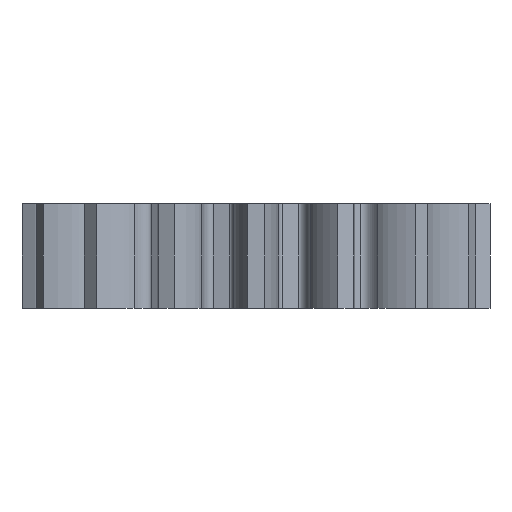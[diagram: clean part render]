
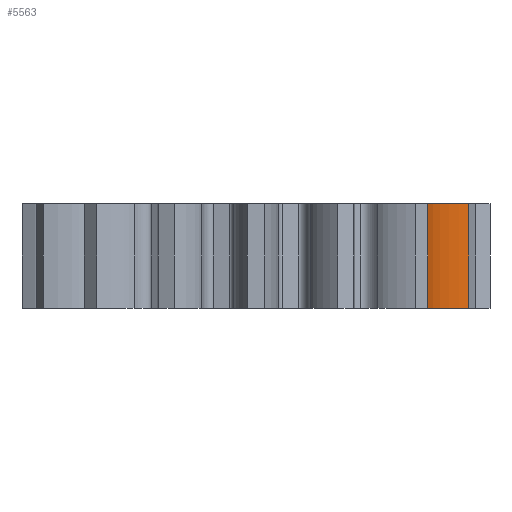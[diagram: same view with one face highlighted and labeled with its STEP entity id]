
A CAD part, front view. The second image highlights one B-rep face of the part: STEP entity #5563.
In plain terms, the highlighted free-form (B-spline) face has degree [1, 3] with [2, 4] control points.
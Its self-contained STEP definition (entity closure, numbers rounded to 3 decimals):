
#45 = PLANE('',#46);
#46 = AXIS2_PLACEMENT_3D('',#47,#48,#49);
#47 = CARTESIAN_POINT('',(0.,0.,0.));
#48 = DIRECTION('',(0.,0.,1.));
#49 = DIRECTION('',(1.,0.,0.));
#101 = PLANE('',#102);
#102 = AXIS2_PLACEMENT_3D('',#103,#104,#105);
#103 = CARTESIAN_POINT('',(0.,0.,5.));
#104 = DIRECTION('',(0.,0.,1.));
#105 = DIRECTION('',(1.,0.,0.));
#2986 = VERTEX_POINT('',#2987);
#2987 = CARTESIAN_POINT('',(8.23,-4.557,0.));
#3003 = ( BOUNDED_SURFACE() B_SPLINE_SURFACE(1,3,(
    (#3004,#3005,#3006,#3007)
    ,(#3008,#3009,#3010,#3011
)),.UNSPECIFIED.,.F.,.F.,.F.) B_SPLINE_SURFACE_WITH_KNOTS((2,2),(4,4),(
    0.,1.),(0.,1.),.PIECEWISE_BEZIER_KNOTS.) 
GEOMETRIC_REPRESENTATION_ITEM() RATIONAL_B_SPLINE_SURFACE((
    (1.,0.881,1.088,1.)
,(1.,0.881,1.088,1.
))) REPRESENTATION_ITEM('') SURFACE() );
#3004 = CARTESIAN_POINT('',(7.267,-4.41,0.));
#3005 = CARTESIAN_POINT('',(7.438,-4.132,0.));
#3006 = CARTESIAN_POINT('',(7.949,-4.369,0.));
#3007 = CARTESIAN_POINT('',(8.23,-4.557,0.));
#3008 = CARTESIAN_POINT('',(7.267,-4.41,5.));
#3009 = CARTESIAN_POINT('',(7.438,-4.132,5.));
#3010 = CARTESIAN_POINT('',(7.949,-4.369,5.));
#3011 = CARTESIAN_POINT('',(8.23,-4.557,5.));
#3018 = EDGE_CURVE('',#2986,#3019,#3021,.T.);
#3019 = VERTEX_POINT('',#3020);
#3020 = CARTESIAN_POINT('',(10.227,-4.687,0.));
#3021 = SURFACE_CURVE('',#3022,(#3027,#3035),.PCURVE_S1.);
#3022 = ( BOUNDED_CURVE() B_SPLINE_CURVE(3,(#3023,#3024,#3025,#3026),
.UNSPECIFIED.,.F.,.F.) B_SPLINE_CURVE_WITH_KNOTS((4,4),(0.,1.),
.PIECEWISE_BEZIER_KNOTS.) CURVE() GEOMETRIC_REPRESENTATION_ITEM() 
RATIONAL_B_SPLINE_CURVE((1.,0.993,1.012,1.)) 
REPRESENTATION_ITEM('') );
#3023 = CARTESIAN_POINT('',(8.23,-4.557,0.));
#3024 = CARTESIAN_POINT('',(8.746,-4.787,0.));
#3025 = CARTESIAN_POINT('',(9.568,-4.791,0.));
#3026 = CARTESIAN_POINT('',(10.227,-4.687,0.));
#3027 = PCURVE('',#45,#3028);
#3028 = DEFINITIONAL_REPRESENTATION('',(#3029),#3034);
#3029 = ( BOUNDED_CURVE() B_SPLINE_CURVE(3,(#3030,#3031,#3032,#3033),
.UNSPECIFIED.,.F.,.F.) B_SPLINE_CURVE_WITH_KNOTS((4,4),(0.,1.),
.PIECEWISE_BEZIER_KNOTS.) CURVE() GEOMETRIC_REPRESENTATION_ITEM() 
RATIONAL_B_SPLINE_CURVE((1.,0.993,1.012,1.)) 
REPRESENTATION_ITEM('') );
#3030 = CARTESIAN_POINT('',(8.23,-4.557));
#3031 = CARTESIAN_POINT('',(8.746,-4.787));
#3032 = CARTESIAN_POINT('',(9.568,-4.791));
#3033 = CARTESIAN_POINT('',(10.227,-4.687));
#3034 = ( GEOMETRIC_REPRESENTATION_CONTEXT(2) 
PARAMETRIC_REPRESENTATION_CONTEXT() REPRESENTATION_CONTEXT('2D SPACE',''
  ) );
#3035 = PCURVE('',#3036,#3045);
#3036 = ( BOUNDED_SURFACE() B_SPLINE_SURFACE(1,3,(
    (#3037,#3038,#3039,#3040)
    ,(#3041,#3042,#3043,#3044
)),.UNSPECIFIED.,.F.,.F.,.F.) B_SPLINE_SURFACE_WITH_KNOTS((2,2),(4,4),(
    0.,1.),(0.,1.),.PIECEWISE_BEZIER_KNOTS.) 
GEOMETRIC_REPRESENTATION_ITEM() RATIONAL_B_SPLINE_SURFACE((
    (1.,0.993,1.012,1.)
,(1.,0.993,1.012,1.
  ))) REPRESENTATION_ITEM('') SURFACE() );
#3037 = CARTESIAN_POINT('',(8.23,-4.557,0.));
#3038 = CARTESIAN_POINT('',(8.746,-4.787,0.));
#3039 = CARTESIAN_POINT('',(9.568,-4.791,0.));
#3040 = CARTESIAN_POINT('',(10.227,-4.687,0.));
#3041 = CARTESIAN_POINT('',(8.23,-4.557,5.));
#3042 = CARTESIAN_POINT('',(8.746,-4.787,5.));
#3043 = CARTESIAN_POINT('',(9.568,-4.791,5.));
#3044 = CARTESIAN_POINT('',(10.227,-4.687,5.));
#3045 = DEFINITIONAL_REPRESENTATION('',(#3046),#3049);
#3046 = B_SPLINE_CURVE_WITH_KNOTS('',1,(#3047,#3048),.UNSPECIFIED.,.F.,
  .F.,(2,2),(0.,1.),.PIECEWISE_BEZIER_KNOTS.);
#3047 = CARTESIAN_POINT('',(0.,0.));
#3048 = CARTESIAN_POINT('',(0.,1.));
#3049 = ( GEOMETRIC_REPRESENTATION_CONTEXT(2) 
PARAMETRIC_REPRESENTATION_CONTEXT() REPRESENTATION_CONTEXT('2D SPACE',''
  ) );
#3067 = ( BOUNDED_SURFACE() B_SPLINE_SURFACE(1,2,(
    (#3068,#3069,#3070)
    ,(#3071,#3072,#3073
)),.UNSPECIFIED.,.F.,.F.,.F.) B_SPLINE_SURFACE_WITH_KNOTS((2,2),(3,3),(
    0.,1.),(0.,1.),.PIECEWISE_BEZIER_KNOTS.) 
GEOMETRIC_REPRESENTATION_ITEM() RATIONAL_B_SPLINE_SURFACE((
    (1.,0.999,1.)
,(1.,0.999,1.))) REPRESENTATION_ITEM('') SURFACE() );
#3068 = CARTESIAN_POINT('',(10.227,-4.687,0.));
#3069 = CARTESIAN_POINT('',(10.401,-4.308,0.));
#3070 = CARTESIAN_POINT('',(10.546,-3.918,0.));
#3071 = CARTESIAN_POINT('',(10.227,-4.687,5.));
#3072 = CARTESIAN_POINT('',(10.401,-4.308,5.));
#3073 = CARTESIAN_POINT('',(10.546,-3.918,5.));
#5322 = VERTEX_POINT('',#5323);
#5323 = CARTESIAN_POINT('',(8.23,-4.557,5.));
#5345 = EDGE_CURVE('',#5322,#5346,#5348,.T.);
#5346 = VERTEX_POINT('',#5347);
#5347 = CARTESIAN_POINT('',(10.227,-4.687,5.));
#5348 = SURFACE_CURVE('',#5349,(#5354,#5362),.PCURVE_S1.);
#5349 = ( BOUNDED_CURVE() B_SPLINE_CURVE(3,(#5350,#5351,#5352,#5353),
.UNSPECIFIED.,.F.,.F.) B_SPLINE_CURVE_WITH_KNOTS((4,4),(0.,1.),
.PIECEWISE_BEZIER_KNOTS.) CURVE() GEOMETRIC_REPRESENTATION_ITEM() 
RATIONAL_B_SPLINE_CURVE((1.,0.993,1.012,1.)) 
REPRESENTATION_ITEM('') );
#5350 = CARTESIAN_POINT('',(8.23,-4.557,5.));
#5351 = CARTESIAN_POINT('',(8.746,-4.787,5.));
#5352 = CARTESIAN_POINT('',(9.568,-4.791,5.));
#5353 = CARTESIAN_POINT('',(10.227,-4.687,5.));
#5354 = PCURVE('',#101,#5355);
#5355 = DEFINITIONAL_REPRESENTATION('',(#5356),#5361);
#5356 = ( BOUNDED_CURVE() B_SPLINE_CURVE(3,(#5357,#5358,#5359,#5360),
.UNSPECIFIED.,.F.,.F.) B_SPLINE_CURVE_WITH_KNOTS((4,4),(0.,1.),
.PIECEWISE_BEZIER_KNOTS.) CURVE() GEOMETRIC_REPRESENTATION_ITEM() 
RATIONAL_B_SPLINE_CURVE((1.,0.993,1.012,1.)) 
REPRESENTATION_ITEM('') );
#5357 = CARTESIAN_POINT('',(8.23,-4.557));
#5358 = CARTESIAN_POINT('',(8.746,-4.787));
#5359 = CARTESIAN_POINT('',(9.568,-4.791));
#5360 = CARTESIAN_POINT('',(10.227,-4.687));
#5361 = ( GEOMETRIC_REPRESENTATION_CONTEXT(2) 
PARAMETRIC_REPRESENTATION_CONTEXT() REPRESENTATION_CONTEXT('2D SPACE',''
  ) );
#5362 = PCURVE('',#3036,#5363);
#5363 = DEFINITIONAL_REPRESENTATION('',(#5364),#5367);
#5364 = B_SPLINE_CURVE_WITH_KNOTS('',1,(#5365,#5366),.UNSPECIFIED.,.F.,
  .F.,(2,2),(0.,1.),.PIECEWISE_BEZIER_KNOTS.);
#5365 = CARTESIAN_POINT('',(1.,0.));
#5366 = CARTESIAN_POINT('',(1.,1.));
#5367 = ( GEOMETRIC_REPRESENTATION_CONTEXT(2) 
PARAMETRIC_REPRESENTATION_CONTEXT() REPRESENTATION_CONTEXT('2D SPACE',''
  ) );
#5520 = EDGE_CURVE('',#3019,#5346,#5521,.T.);
#5521 = SURFACE_CURVE('',#5522,(#5525,#5531),.PCURVE_S1.);
#5522 = B_SPLINE_CURVE_WITH_KNOTS('',1,(#5523,#5524),.UNSPECIFIED.,.F.,
  .F.,(2,2),(0.,1.),.PIECEWISE_BEZIER_KNOTS.);
#5523 = CARTESIAN_POINT('',(10.227,-4.687,0.));
#5524 = CARTESIAN_POINT('',(10.227,-4.687,5.));
#5525 = PCURVE('',#3067,#5526);
#5526 = DEFINITIONAL_REPRESENTATION('',(#5527),#5530);
#5527 = B_SPLINE_CURVE_WITH_KNOTS('',1,(#5528,#5529),.UNSPECIFIED.,.F.,
  .F.,(2,2),(0.,1.),.PIECEWISE_BEZIER_KNOTS.);
#5528 = CARTESIAN_POINT('',(0.,0.));
#5529 = CARTESIAN_POINT('',(1.,0.));
#5530 = ( GEOMETRIC_REPRESENTATION_CONTEXT(2) 
PARAMETRIC_REPRESENTATION_CONTEXT() REPRESENTATION_CONTEXT('2D SPACE',''
  ) );
#5531 = PCURVE('',#3036,#5532);
#5532 = DEFINITIONAL_REPRESENTATION('',(#5533),#5536);
#5533 = B_SPLINE_CURVE_WITH_KNOTS('',1,(#5534,#5535),.UNSPECIFIED.,.F.,
  .F.,(2,2),(0.,1.),.PIECEWISE_BEZIER_KNOTS.);
#5534 = CARTESIAN_POINT('',(0.,1.));
#5535 = CARTESIAN_POINT('',(1.,1.));
#5536 = ( GEOMETRIC_REPRESENTATION_CONTEXT(2) 
PARAMETRIC_REPRESENTATION_CONTEXT() REPRESENTATION_CONTEXT('2D SPACE',''
  ) );
#5563 = ADVANCED_FACE('',(#5564),#3036,.F.);
#5564 = FACE_BOUND('',#5565,.F.);
#5565 = EDGE_LOOP('',(#5566,#5567,#5585,#5586));
#5566 = ORIENTED_EDGE('',*,*,#3018,.F.);
#5567 = ORIENTED_EDGE('',*,*,#5568,.T.);
#5568 = EDGE_CURVE('',#2986,#5322,#5569,.T.);
#5569 = SURFACE_CURVE('',#5570,(#5573,#5579),.PCURVE_S1.);
#5570 = B_SPLINE_CURVE_WITH_KNOTS('',1,(#5571,#5572),.UNSPECIFIED.,.F.,
  .F.,(2,2),(0.,1.),.PIECEWISE_BEZIER_KNOTS.);
#5571 = CARTESIAN_POINT('',(8.23,-4.557,0.));
#5572 = CARTESIAN_POINT('',(8.23,-4.557,5.));
#5573 = PCURVE('',#3036,#5574);
#5574 = DEFINITIONAL_REPRESENTATION('',(#5575),#5578);
#5575 = B_SPLINE_CURVE_WITH_KNOTS('',1,(#5576,#5577),.UNSPECIFIED.,.F.,
  .F.,(2,2),(0.,1.),.PIECEWISE_BEZIER_KNOTS.);
#5576 = CARTESIAN_POINT('',(0.,0.));
#5577 = CARTESIAN_POINT('',(1.,0.));
#5578 = ( GEOMETRIC_REPRESENTATION_CONTEXT(2) 
PARAMETRIC_REPRESENTATION_CONTEXT() REPRESENTATION_CONTEXT('2D SPACE',''
  ) );
#5579 = PCURVE('',#3003,#5580);
#5580 = DEFINITIONAL_REPRESENTATION('',(#5581),#5584);
#5581 = B_SPLINE_CURVE_WITH_KNOTS('',1,(#5582,#5583),.UNSPECIFIED.,.F.,
  .F.,(2,2),(0.,1.),.PIECEWISE_BEZIER_KNOTS.);
#5582 = CARTESIAN_POINT('',(0.,1.));
#5583 = CARTESIAN_POINT('',(1.,1.));
#5584 = ( GEOMETRIC_REPRESENTATION_CONTEXT(2) 
PARAMETRIC_REPRESENTATION_CONTEXT() REPRESENTATION_CONTEXT('2D SPACE',''
  ) );
#5585 = ORIENTED_EDGE('',*,*,#5345,.T.);
#5586 = ORIENTED_EDGE('',*,*,#5520,.F.);
